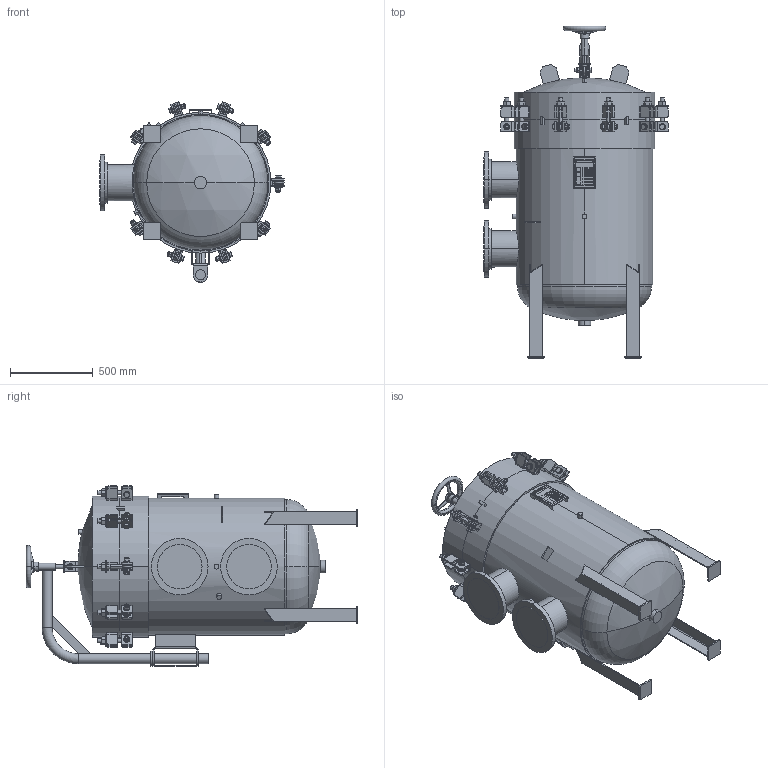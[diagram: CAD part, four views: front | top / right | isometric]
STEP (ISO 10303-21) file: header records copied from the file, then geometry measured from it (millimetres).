
FILE_DESCRIPTION (( 'STEP AP203' ), '1' );
FILE_NAME ('002004-01425.step', '2025-12-09T14:46:01', ( '' ), ( '' ), 'SwSTEP 2.0', 'SolidWorks 2023', '' );
FILE_SCHEMA (( 'CONFIG_CONTROL_DESIGN' ));
Length unit declared in the file: inch
Products named in the file (1): 002004-01425
Bounding box: 1116.01 x 2011.29 x 1091.89 mm (x, y, z)
Volume: 356723320.5 mm3; surface area: 10735678.1 mm2
Topology: 38 solids, 38 shells, 2053 faces, 4857 edges, 3029 vertices
Faces by surface type: plane 877, cylinder 602, cone 434, torus 94, bspline 36, sphere 10
Entity records: 67022 total; most frequent: CARTESIAN_POINT 19973, DIRECTION 9927, ORIENTED_EDGE 9690, EDGE_CURVE 4845, AXIS2_PLACEMENT_3D 3926, VERTEX_POINT 3029, EDGE_LOOP 2254, LINE 2075
